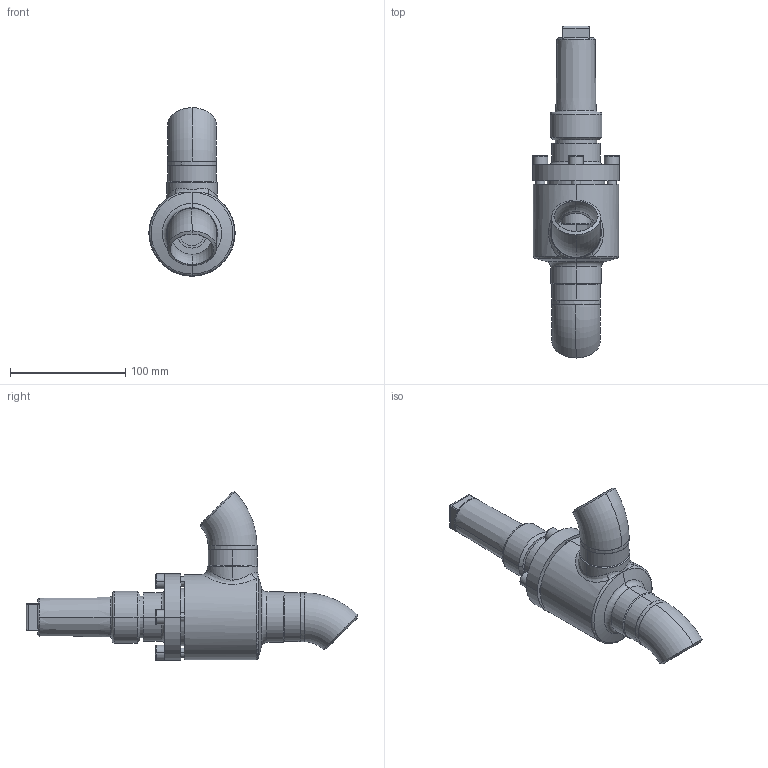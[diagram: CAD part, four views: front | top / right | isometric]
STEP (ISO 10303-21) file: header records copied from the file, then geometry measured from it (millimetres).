
FILE_DESCRIPTION (( 'STEP AP214' ), '1' );
FILE_NAME ('AVR26300D13-DN032_R1_PS40.STEP', '2006-04-27T13:23:26', ( 'Herr Grams' ), ( 'AWP GmbH' ), 'SwSTEP 2.0', 'SolidWorks 2002296', '' );
FILE_SCHEMA (( 'AUTOMOTIVE_DESIGN' ));
Length unit declared in the file: millimetre
Products named in the file (10): AVR26300D13-DN032_R1_PS40; Kappe16402_DN010-32_Standard; Gehäuse-kpl16300-DN032_R1_Standard; Gehäuse16400-DN032_Standard; Rohrbogen 45°_R1-Fase_Rohrbogen-DN032-45°; bead16300-Geh-032-2_Standard; bead16300-Geh-032-1_Standard; AVR26300E13_Deck+Schr-DN25-32_Standard; Deckel26300E13-DN25-32_Standard; Zylinderschraube-DIN912_M 8x 25
Assembly tree (13 placements, depth 3):
  AVR26300D13-DN032_R1_PS40
    Kappe16402_DN010-32_Standard
    AVR26300E13_Deck+Schr-DN25-32_Standard
      Zylinderschraube-DIN912_M 8x 25  x4
      Deckel26300E13-DN25-32_Standard
    Gehäuse-kpl16300-DN032_R1_Standard
      bead16300-Geh-032-1_Standard
      Rohrbogen 45°_R1-Fase_Rohrbogen-DN032-45°  x2
      bead16300-Geh-032-2_Standard
      Gehäuse16400-DN032_Standard
Bounding box: 75 x 288.43 x 146.43 mm (x, y, z)
Volume: 390578.3 mm3; surface area: 115897.1 mm2
Topology: 11 solids, 11 shells, 245 faces, 550 edges, 345 vertices
Faces by surface type: cylinder 82, plane 74, cone 48, torus 31, bspline 10
Entity records: 34276 total; most frequent: CARTESIAN_POINT 29442, DIRECTION 896, ORIENTED_EDGE 828, EDGE_CURVE 414, AXIS2_PLACEMENT_3D 379, VERTEX_POINT 259, EDGE_LOOP 211, CIRCLE 190
